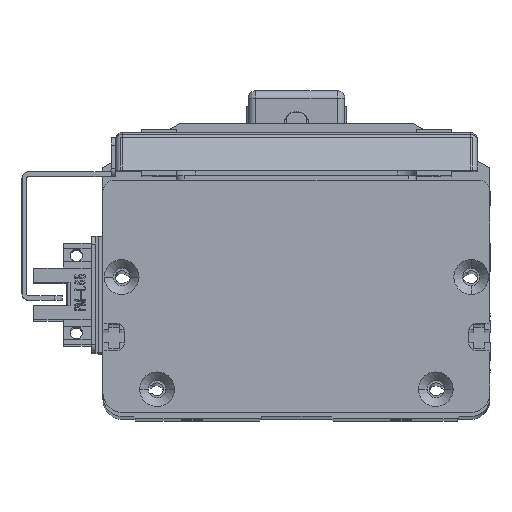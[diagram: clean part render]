
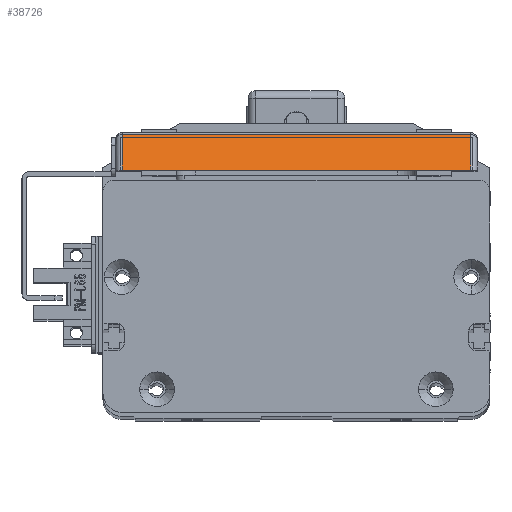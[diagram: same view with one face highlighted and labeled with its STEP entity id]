
A CAD part, top view. The second image highlights one B-rep face of the part: STEP entity #38726.
In plain terms, the highlighted planar face has unit normal (0, 0.707, 0.707) as drawn and (-0.707, 0, -0.707) by its records, which use the part's own axes.
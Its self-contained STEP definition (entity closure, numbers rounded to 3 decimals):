
#731 = LINE ( 'NONE', #14095, #51801 ) ;
#1337 = AXIS2_PLACEMENT_3D ( 'NONE', #24592, #3726, #9187 ) ;
#2287 = CARTESIAN_POINT ( 'NONE',  ( -68., 1.7, 5.6 ) ) ;
#3416 = VERTEX_POINT ( 'NONE', #4007 ) ;
#3726 = DIRECTION ( 'NONE',  ( -0.707, 0., -0.707 ) ) ;
#4007 = CARTESIAN_POINT ( 'NONE',  ( -66.5, 91.7, 4.1 ) ) ;
#4630 = VECTOR ( 'NONE', #27661, 1000. ) ;
#4685 = EDGE_CURVE ( 'NONE', #3416, #36053, #29871, .T. ) ;
#9187 = DIRECTION ( 'NONE',  ( -0.707, 0., 0.707 ) ) ;
#11043 = CARTESIAN_POINT ( 'NONE',  ( -68., 91.7, 5.6 ) ) ;
#14095 = CARTESIAN_POINT ( 'NONE',  ( -66.5, 93.4, 4.1 ) ) ;
#20039 = ORIENTED_EDGE ( 'NONE', *, *, #25955, .T. ) ;
#23281 = LINE ( 'NONE', #2287, #4630 ) ;
#24592 = CARTESIAN_POINT ( 'NONE',  ( -68., 93.4, 5.6 ) ) ;
#25056 = VERTEX_POINT ( 'NONE', #32611 ) ;
#25955 = EDGE_CURVE ( 'NONE', #46414, #25056, #23281, .T. ) ;
#27661 = DIRECTION ( 'NONE',  ( -0.707, 0., 0.707 ) ) ;
#29871 = LINE ( 'NONE', #11043, #45347 ) ;
#30304 = VECTOR ( 'NONE', #56232, 1000. ) ;
#30377 = CARTESIAN_POINT ( 'NONE',  ( -57.298, 1.7, -5.102 ) ) ;
#32611 = CARTESIAN_POINT ( 'NONE',  ( -66.5, 1.7, 4.1 ) ) ;
#33313 = CARTESIAN_POINT ( 'NONE',  ( -57.298, 91.7, -5.102 ) ) ;
#36053 = VERTEX_POINT ( 'NONE', #33313 ) ;
#38726 = ADVANCED_FACE ( 'NONE', ( #47893 ), #39797, .T. ) ;
#39797 = PLANE ( 'NONE',  #1337 ) ;
#41688 = ORIENTED_EDGE ( 'NONE', *, *, #64781, .T. ) ;
#44924 = LINE ( 'NONE', #64400, #30304 ) ;
#45347 = VECTOR ( 'NONE', #62719, 1000. ) ;
#46414 = VERTEX_POINT ( 'NONE', #30377 ) ;
#47893 = FACE_OUTER_BOUND ( 'NONE', #58197, .T. ) ;
#51801 = VECTOR ( 'NONE', #60783, 1000. ) ;
#56232 = DIRECTION ( 'NONE',  ( 0., -1., 0. ) ) ;
#56315 = EDGE_CURVE ( 'NONE', #36053, #46414, #44924, .T. ) ;
#58197 = EDGE_LOOP ( 'NONE', ( #20039, #41688, #65958, #65170 ) ) ;
#60783 = DIRECTION ( 'NONE',  ( 0., 1., 0. ) ) ;
#62719 = DIRECTION ( 'NONE',  ( 0.707, 0., -0.707 ) ) ;
#64400 = CARTESIAN_POINT ( 'NONE',  ( -57.298, 93.4, -5.102 ) ) ;
#64781 = EDGE_CURVE ( 'NONE', #25056, #3416, #731, .T. ) ;
#65170 = ORIENTED_EDGE ( 'NONE', *, *, #56315, .T. ) ;
#65958 = ORIENTED_EDGE ( 'NONE', *, *, #4685, .T. ) ;
